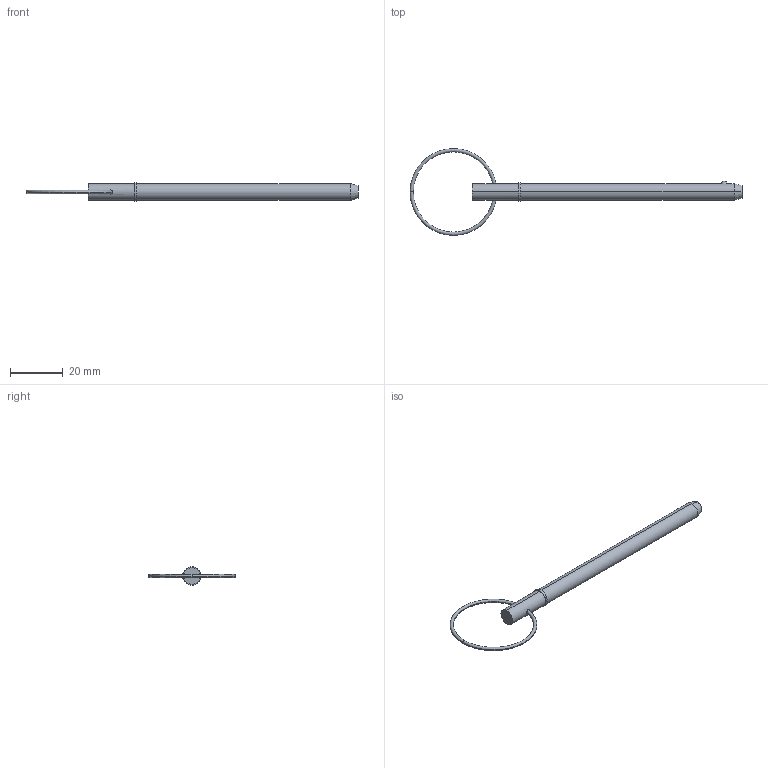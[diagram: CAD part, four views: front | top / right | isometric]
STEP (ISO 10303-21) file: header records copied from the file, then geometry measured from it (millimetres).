
FILE_DESCRIPTION (( 'STEP AP203' ), '1' );
FILE_NAME ('33016.W2530.step', '2024-11-07T11:02:48', ( '' ), ( '' ), 'SwSTEP 2.0', 'SolidWorks 2019', '' );
FILE_SCHEMA (( 'CONFIG_CONTROL_DESIGN' ));
Length unit declared in the file: millimetre
Products named in the file (3): 33016.W2530; Part2_33016.W2530; Part1_33016.W2530
Assembly tree (2 placements, depth 2):
  33016.W2530
    Part1_33016.W2530
    Part2_33016.W2530
Bounding box: 126.14 x 33.02 x 6.99 mm (x, y, z)
Volume: 3342.4 mm3; surface area: 2530 mm2
Topology: 2 solids, 2 shells, 22 faces, 43 edges, 26 vertices
Faces by surface type: torus 8, cylinder 6, plane 4, sphere 2, cone 2
Entity records: 971 total; most frequent: CARTESIAN_POINT 194, DIRECTION 120, ORIENTED_EDGE 86, AXIS2_PLACEMENT_3D 56, EDGE_CURVE 43, CIRCLE 29, EDGE_LOOP 27, VERTEX_POINT 26
